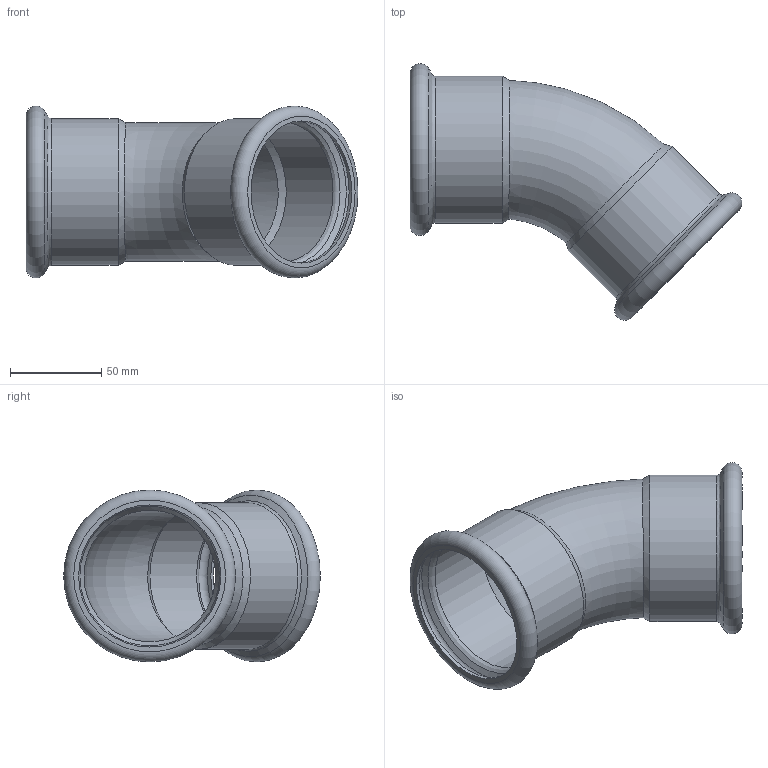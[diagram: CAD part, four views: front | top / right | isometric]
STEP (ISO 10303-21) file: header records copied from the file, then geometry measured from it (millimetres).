
FILE_DESCRIPTION((''),'2;1');
FILE_NAME('G:\Technics\CAD\Bauteile\076\6904176(1).stp','2008-03-10T12:57:15',('herberg'),(''),'Autodesk Inventor 2008','Autodesk Inventor 2008','');
FILE_SCHEMA(('AUTOMOTIVE_DESIGN { 1 0 10303 214 1 1 1 1 }'));
Length unit declared in the file: millimetre
Products named in the file (1): 6904176(1)
Bounding box: 182.13 x 140.78 x 94.3 mm (x, y, z)
Volume: 93409 mm3; surface area: 94402 mm2
Topology: 1 solids, 1 shells, 28 faces, 54 edges, 30 vertices
Faces by surface type: cone 8, cylinder 6, torus 6, bspline 4, plane 4
Full cylindrical faces by diameter (mm): 76.6 x2, 78 x2, 80.6 x2
Entity records: 954 total; most frequent: CARTESIAN_POINT 473, DIRECTION 98, ORIENTED_EDGE 56, EDGE_LOOP 56, AXIS2_PLACEMENT_3D 49, VERTEX_POINT 28, EDGE_CURVE 28, FACE_OUTER_BOUND 28
